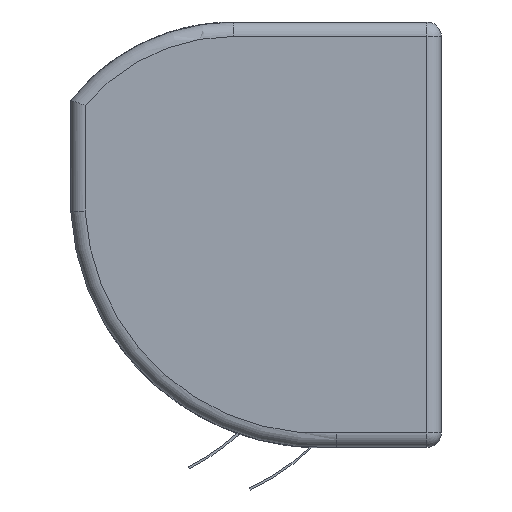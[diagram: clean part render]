
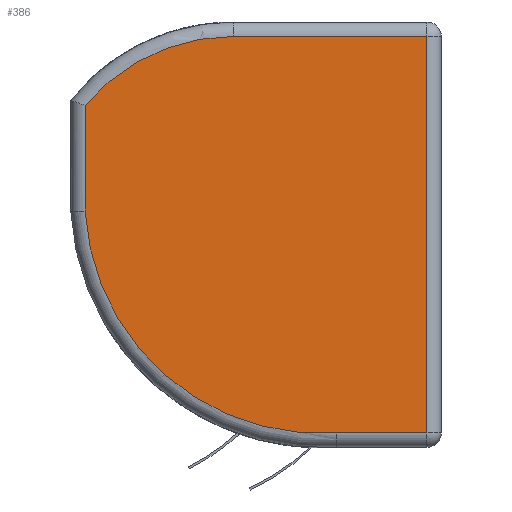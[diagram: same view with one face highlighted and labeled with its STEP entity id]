
A CAD part, left-side view. The second image highlights one B-rep face of the part: STEP entity #386.
In plain terms, the highlighted planar face has unit normal (-1, 0, 0).
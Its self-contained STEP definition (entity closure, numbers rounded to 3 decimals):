
#128 = VERTEX_POINT('',#129);
#129 = CARTESIAN_POINT('',(-400.,10.,285.));
#136 = EDGE_CURVE('',#128,#137,#139,.T.);
#137 = VERTEX_POINT('',#138);
#138 = CARTESIAN_POINT('',(-400.,10.,10.));
#139 = LINE('',#140,#141);
#140 = CARTESIAN_POINT('',(-400.,10.,295.));
#141 = VECTOR('',#142,1.);
#142 = DIRECTION('',(0.,0.,-1.));
#386 = ADVANCED_FACE('',(#387),#430,.T.);
#387 = FACE_BOUND('',#388,.T.);
#388 = EDGE_LOOP('',(#389,#397,#398,#406,#415,#423));
#389 = ORIENTED_EDGE('',*,*,#390,.F.);
#390 = EDGE_CURVE('',#137,#391,#393,.T.);
#391 = VERTEX_POINT('',#392);
#392 = CARTESIAN_POINT('',(-400.,72.433,10.));
#393 = LINE('',#394,#395);
#394 = CARTESIAN_POINT('',(-400.,0.,10.));
#395 = VECTOR('',#396,1.);
#396 = DIRECTION('',(0.,1.,0.));
#397 = ORIENTED_EDGE('',*,*,#136,.F.);
#398 = ORIENTED_EDGE('',*,*,#399,.F.);
#399 = EDGE_CURVE('',#400,#128,#402,.T.);
#400 = VERTEX_POINT('',#401);
#401 = CARTESIAN_POINT('',(-400.,144.183,285.));
#402 = LINE('',#403,#404);
#403 = CARTESIAN_POINT('',(-400.,144.183,285.));
#404 = VECTOR('',#405,1.);
#405 = DIRECTION('',(0.,-1.,0.));
#406 = ORIENTED_EDGE('',*,*,#407,.F.);
#407 = EDGE_CURVE('',#408,#400,#410,.T.);
#408 = VERTEX_POINT('',#409);
#409 = CARTESIAN_POINT('',(-400.,247.,237.126));
#410 = CIRCLE('',#411,134.346);
#411 = AXIS2_PLACEMENT_3D('',#412,#413,#414);
#412 = CARTESIAN_POINT('',(-400.,144.183,150.654));
#413 = DIRECTION('',(1.,0.,0.));
#414 = DIRECTION('',(0.,0.782,0.624)
  );
#415 = ORIENTED_EDGE('',*,*,#416,.F.);
#416 = EDGE_CURVE('',#417,#408,#419,.T.);
#417 = VERTEX_POINT('',#418);
#418 = CARTESIAN_POINT('',(-400.,247.016,163.888));
#419 = LINE('',#420,#421);
#420 = CARTESIAN_POINT('',(-400.,247.,163.326));
#421 = VECTOR('',#422,1.);
#422 = DIRECTION('',(0.,0.,1.));
#423 = ORIENTED_EDGE('',*,*,#424,.F.);
#424 = EDGE_CURVE('',#391,#417,#425,.T.);
#425 = CIRCLE('',#426,163.443);
#426 = AXIS2_PLACEMENT_3D('',#427,#428,#429);
#427 = CARTESIAN_POINT('',(-400.,83.83,173.069));
#428 = DIRECTION('',(1.,0.,0.));
#429 = DIRECTION('',(0.,-0.066,
    -0.998));
#430 = PLANE('',#431);
#431 = AXIS2_PLACEMENT_3D('',#432,#433,#434);
#432 = CARTESIAN_POINT('',(-400.,110.541,154.912));
#433 = DIRECTION('',(-1.,0.,0.));
#434 = DIRECTION('',(0.,0.,1.));
